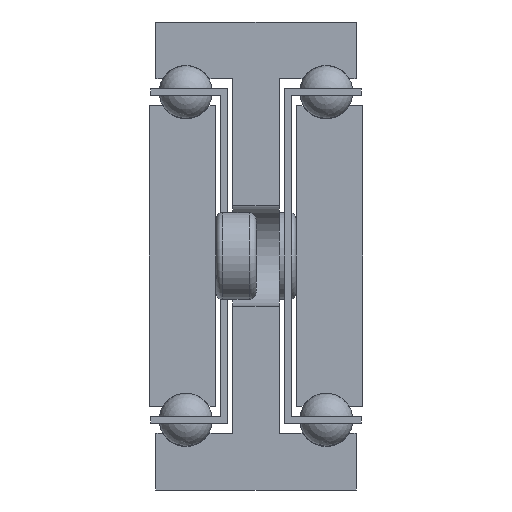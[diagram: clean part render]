
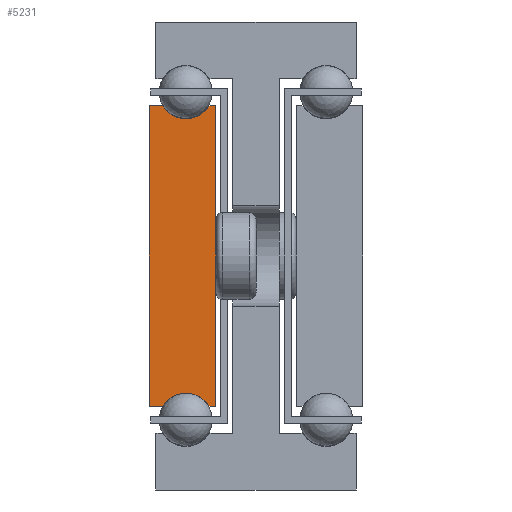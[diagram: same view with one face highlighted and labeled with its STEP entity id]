
A CAD part, front view. The second image highlights one B-rep face of the part: STEP entity #5231.
In plain terms, the highlighted planar face has unit normal (0, -1, 0).
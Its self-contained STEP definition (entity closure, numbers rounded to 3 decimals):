
#377=CIRCLE('',#5624,4.);
#379=CIRCLE('',#5630,4.);
#625=FACE_OUTER_BOUND('',#975,.T.);
#975=EDGE_LOOP('',(#3850,#3851,#3852,#3853,#3854,#3855,#3856,#3857));
#1444=LINE('',#7716,#1944);
#1447=LINE('',#7722,#1947);
#1451=LINE('',#7734,#1951);
#1454=LINE('',#7740,#1954);
#1457=LINE('',#7746,#1957);
#1461=LINE('',#7756,#1961);
#1944=VECTOR('',#6254,1.);
#1947=VECTOR('',#6259,1.);
#1951=VECTOR('',#6271,1.);
#1954=VECTOR('',#6276,1.);
#1957=VECTOR('',#6281,1.);
#1961=VECTOR('',#6293,1.);
#2452=VERTEX_POINT('',#7713);
#2453=VERTEX_POINT('',#7715);
#2455=VERTEX_POINT('',#7721);
#2457=VERTEX_POINT('',#7727);
#2459=VERTEX_POINT('',#7733);
#2461=VERTEX_POINT('',#7739);
#2463=VERTEX_POINT('',#7745);
#2465=VERTEX_POINT('',#7751);
#3014=EDGE_CURVE('',#2453,#2452,#1444,.T.);
#3017=EDGE_CURVE('',#2455,#2453,#1447,.T.);
#3020=EDGE_CURVE('',#2457,#2455,#377,.T.);
#3023=EDGE_CURVE('',#2459,#2457,#1451,.T.);
#3026=EDGE_CURVE('',#2461,#2459,#1454,.T.);
#3029=EDGE_CURVE('',#2463,#2461,#1457,.T.);
#3032=EDGE_CURVE('',#2465,#2463,#379,.T.);
#3035=EDGE_CURVE('',#2452,#2465,#1461,.T.);
#3850=ORIENTED_EDGE('',*,*,#3035,.T.);
#3851=ORIENTED_EDGE('',*,*,#3032,.T.);
#3852=ORIENTED_EDGE('',*,*,#3029,.T.);
#3853=ORIENTED_EDGE('',*,*,#3026,.T.);
#3854=ORIENTED_EDGE('',*,*,#3023,.T.);
#3855=ORIENTED_EDGE('',*,*,#3020,.T.);
#3856=ORIENTED_EDGE('',*,*,#3017,.T.);
#3857=ORIENTED_EDGE('',*,*,#3014,.T.);
#5005=PLANE('',#5633);
#5231=ADVANCED_FACE('',(#625),#5005,.T.);
#5624=AXIS2_PLACEMENT_3D('',#7728,#6265,#6266);
#5630=AXIS2_PLACEMENT_3D('',#7752,#6287,#6288);
#5633=AXIS2_PLACEMENT_3D('',#7758,#6296,#6297);
#6254=DIRECTION('',(0.,0.,-1.));
#6259=DIRECTION('',(-1.,0.,0.));
#6265=DIRECTION('center_axis',(0.,1.,0.));
#6266=DIRECTION('ref_axis',(-0.866,0.,-0.5));
#6271=DIRECTION('',(-1.,0.,0.));
#6276=DIRECTION('',(0.,0.,1.));
#6281=DIRECTION('',(1.,0.,0.));
#6287=DIRECTION('center_axis',(0.,1.,0.));
#6288=DIRECTION('ref_axis',(0.866,0.,0.5));
#6293=DIRECTION('',(1.,0.,0.));
#6296=DIRECTION('center_axis',(0.,-1.,0.));
#6297=DIRECTION('ref_axis',(1.,0.,0.));
#7713=CARTESIAN_POINT('',(-1079.151,-817.766,252.5));
#7715=CARTESIAN_POINT('',(-1079.151,-817.766,297.5));
#7716=CARTESIAN_POINT('',(-1079.151,-817.766,252.5));
#7721=CARTESIAN_POINT('',(-1077.115,-817.766,297.5));
#7722=CARTESIAN_POINT('',(-1079.151,-817.766,297.5));
#7727=CARTESIAN_POINT('',(-1070.187,-817.766,297.5));
#7728=CARTESIAN_POINT('Origin',(-1073.651,-817.766,299.5));
#7733=CARTESIAN_POINT('',(-1069.151,-817.766,297.5));
#7734=CARTESIAN_POINT('',(-1070.187,-817.766,297.5));
#7739=CARTESIAN_POINT('',(-1069.151,-817.766,252.5));
#7740=CARTESIAN_POINT('',(-1069.151,-817.766,297.5));
#7745=CARTESIAN_POINT('',(-1070.187,-817.766,252.5));
#7746=CARTESIAN_POINT('',(-1069.151,-817.766,252.5));
#7751=CARTESIAN_POINT('',(-1077.115,-817.766,252.5));
#7752=CARTESIAN_POINT('Origin',(-1073.651,-817.766,250.5));
#7756=CARTESIAN_POINT('',(-1077.115,-817.766,252.5));
#7758=CARTESIAN_POINT('Origin',(-1074.157,-817.766,275.));
